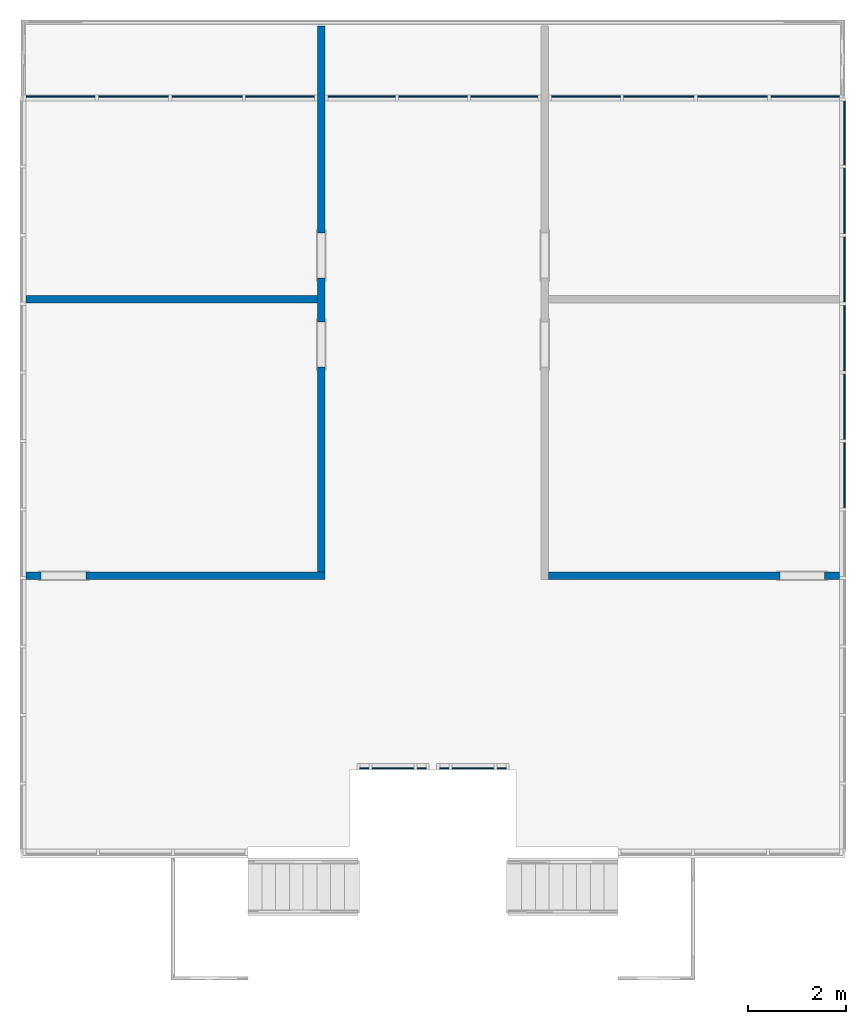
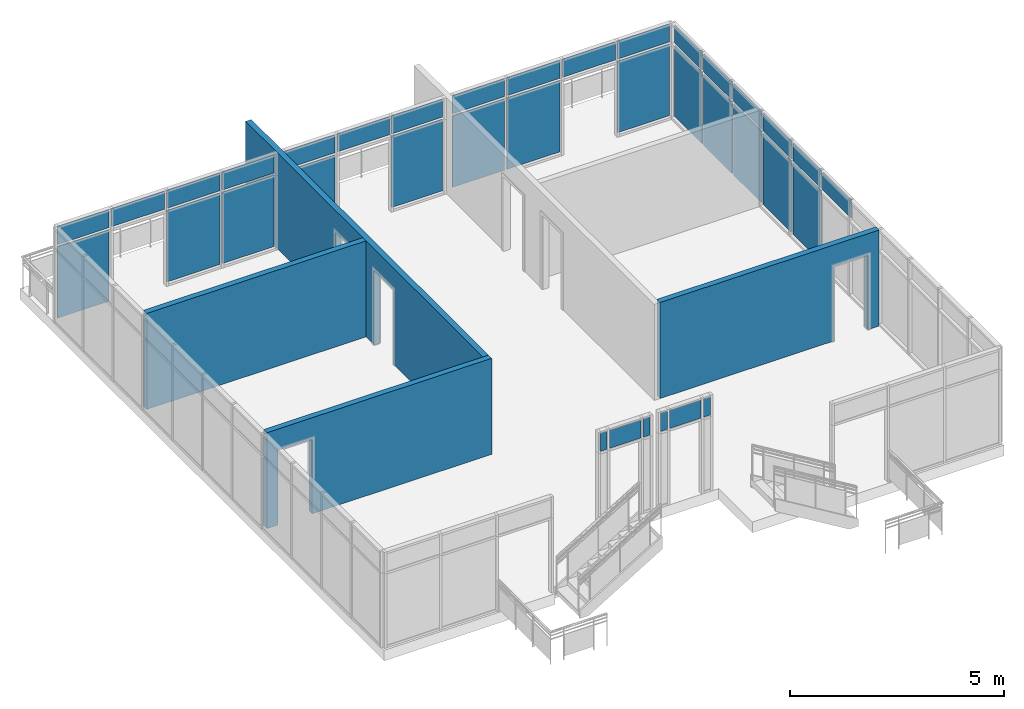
# One storey, part 6 of 11: 36 plates, 4 walls, 4 openings, 6 elements without a shape of their own.
"""IFC2X3 building model written with IfcOpenShell, lengths in feet."""

from ifc_helpers import new_model, entity, si_unit, converted_unit, derived_unit, direction, frame, frame_2d, origin, origin_2d_with_axis, place, context, subcontext, project, spatial, rectangle, extrude, source, transform, mapped, material, layer, layer_set, layer_usage, type_object, type_shapes, element, aggregate, save


model = new_model("IFC2X3")

# Units and contexts
model_context = context("Model", 3, precision=0.0001, world=origin(), true_north=direction((6.12303176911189e-17, 1.0)))
body_context = subcontext(model_context, "Body", "Model", "MODEL_VIEW")
ifc_project = project(units=[converted_unit("LENGTHUNIT", "FOOT", entity("IfcRatioMeasure", 0.3048), si_unit("LENGTHUNIT", "METRE"), dimensions=[1, 0, 0, 0, 0, 0, 0]), converted_unit("AREAUNIT", "SQUARE FOOT", entity("IfcRatioMeasure", 0.09290304), si_unit("AREAUNIT", "SQUARE_METRE"), dimensions=[2, 0, 0, 0, 0, 0, 0]), converted_unit("VOLUMEUNIT", "CUBIC FOOT", entity("IfcRatioMeasure", 0.028316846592), si_unit("VOLUMEUNIT", "CUBIC_METRE"), dimensions=[3, 0, 0, 0, 0, 0, 0]), converted_unit("PLANEANGLEUNIT", "DEGREE", entity("IfcRatioMeasure", 0.0174532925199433), si_unit("PLANEANGLEUNIT", "RADIAN"), dimensions=[0, 0, 0, 0, 0, 0, 0]), si_unit("MASSUNIT", "GRAM", prefix="KILO"), derived_unit("MASSDENSITYUNIT", [(si_unit("MASSUNIT", "GRAM", prefix="KILO"), 1), (si_unit("LENGTHUNIT", "METRE"), -3)]), si_unit("TIMEUNIT", "SECOND"), si_unit("FREQUENCYUNIT", "HERTZ"), si_unit("THERMODYNAMICTEMPERATUREUNIT", "DEGREE_CELSIUS"), derived_unit("THERMALTRANSMITTANCEUNIT", [(si_unit("MASSUNIT", "GRAM", prefix="KILO"), 1), (si_unit("THERMODYNAMICTEMPERATUREUNIT", "KELVIN"), -1), (si_unit("TIMEUNIT", "SECOND"), -3)]), derived_unit("VOLUMETRICFLOWRATEUNIT", [(si_unit("LENGTHUNIT", "METRE"), 3), (si_unit("TIMEUNIT", "SECOND"), -1)]), si_unit("ELECTRICCURRENTUNIT", "AMPERE"), si_unit("ELECTRICVOLTAGEUNIT", "VOLT"), si_unit("POWERUNIT", "WATT"), si_unit("FORCEUNIT", "NEWTON"), si_unit("ILLUMINANCEUNIT", "LUX"), si_unit("LUMINOUSFLUXUNIT", "LUMEN"), si_unit("LUMINOUSINTENSITYUNIT", "CANDELA"), derived_unit("USERDEFINED", [(si_unit("MASSUNIT", "GRAM", prefix="KILO"), -1), (si_unit("LENGTHUNIT", "METRE"), -2), (si_unit("TIMEUNIT", "SECOND"), 3), (si_unit("LUMINOUSFLUXUNIT", "LUMEN"), 1)]), derived_unit("LINEARVELOCITYUNIT", [(si_unit("LENGTHUNIT", "METRE"), 1), (si_unit("TIMEUNIT", "SECOND"), -1)]), si_unit("PRESSUREUNIT", "PASCAL"), derived_unit("USERDEFINED", [(si_unit("LENGTHUNIT", "METRE"), -2), (si_unit("MASSUNIT", "GRAM", prefix="KILO"), 1), (si_unit("TIMEUNIT", "SECOND"), -2)])], contexts=[model_context])

# Site, building, storey
site_placement = place(None, origin())
site = spatial("IfcSite", under=ifc_project, at=site_placement, Name="Default", CompositionType="ELEMENT")
building_placement = place(site_placement, origin())
building = spatial("IfcBuilding", under=site, at=building_placement, CompositionType="ELEMENT")
storey_placement = place(building_placement, frame((0.0, 0.0, 40.0)))
storey = spatial("IfcBuildingStorey", under=building, at=storey_placement, Name="L 7", CompositionType="ELEMENT", Elevation=39.9999999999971)

# Curtain wall, plates
curtain_wall_type = type_object("IfcCurtainWallType", Name="Curtain Wall:Storefront 2", PredefinedType="NOTDEFINED")
curtain_wall_1_placement = place(storey_placement, frame((0.0, 0.0, -40.0)))
curtain_wall_1 = element("IfcCurtainWall", 1, at=curtain_wall_1_placement, inside=storey, type_object=curtain_wall_type, Name="Curtain Wall:Storefront 2", ObjectType="Curtain Wall:Storefront 2")
ifc_material_1 = material(Name="<Unnamed>")
ifc_layer_1 = layer(ifc_material_1, 0.0833333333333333)
ifc_layer_set_1 = layer_set([ifc_layer_1], Name="Curtain Wall:Storefront")
ifc_layer_usage_1 = layer_usage(ifc_layer_set_1, "AXIS3", "POSITIVE", 0.104166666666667)
plate_type_1 = type_object("IfcPlateType", Name="Glazed", PredefinedType="CURTAIN_PANEL", material=ifc_layer_set_1)
shared_shape_1 = source(origin(), body_context, "Body", "SweptSolid", [
    extrude(rectangle(XDim=0.0833333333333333, YDim=0.604166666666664, at=frame_2d((-6.93889390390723e-18, -2.77555756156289e-17), x_axis=(1.0, 0.0))), frame((0.0, 0.104166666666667, 0.0), z_axis=(0.0, 0.0, 1.0), x_axis=(0.0, 1.0, 0.0)), (0.0, 0.0, 1.0), 1.6875),
])
type_shapes(plate_type_1, [shared_shape_1])
plate_1_placement = place(curtain_wall_1_placement, frame((-34.7522461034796, -1.23280792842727, 47.1041666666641), z_axis=(0.0, 0.0, 1.0), x_axis=(-1.0, 0.0, 0.0)))
plate_1 = element("IfcPlate", 2, at=plate_1_placement, type_object=plate_type_1, material=ifc_layer_usage_1, Name="System Panel:Glazed", ObjectType="Glazed", context=body_context, shape_type="MappedRepresentation", body=[
    mapped(shared_shape_1, transform((0.0, 0.0, 0.0), scale=1.0)),
])
ifc_layer_usage_2 = layer_usage(ifc_layer_set_1, "AXIS3", "POSITIVE", 0.104166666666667)
plate_2_placement = place(curtain_wall_1_placement, frame((-38.5647461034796, -1.23280792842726, 47.1041666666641), z_axis=(0.0, 0.0, 1.0), x_axis=(-1.0, 0.0, 0.0)))
plate_2 = element("IfcPlate", 3, at=plate_2_placement, type_object=plate_type_1, material=ifc_layer_usage_2, Name="System Panel:Glazed", ObjectType="Glazed", context=body_context, shape_type="MappedRepresentation", body=[
    mapped(shared_shape_1, transform((0.0, 0.0, 0.0), scale=1.0)),
])

curtain_wall_2_placement = place(storey_placement, frame((0.0, 0.0, -40.0)))
curtain_wall_2 = element("IfcCurtainWall", 4, at=curtain_wall_2_placement, inside=storey, type_object=curtain_wall_type, Name="Curtain Wall:Storefront 2", ObjectType="Curtain Wall:Storefront 2")
ifc_layer_usage_3 = layer_usage(ifc_layer_set_1, "AXIS3", "POSITIVE", 0.104166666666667)
plate_3_placement = place(curtain_wall_2_placement, frame((-29.4189127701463, -1.23280792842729, 47.1041666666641), z_axis=(0.0, 0.0, 1.0), x_axis=(-1.0, 0.0, 0.0)))
plate_3 = element("IfcPlate", 5, at=plate_3_placement, type_object=plate_type_1, material=ifc_layer_usage_3, Name="System Panel:Glazed", ObjectType="Glazed", context=body_context, shape_type="MappedRepresentation", body=[
    mapped(shared_shape_1, transform((0.0, 0.0, 0.0), scale=1.0)),
])
ifc_layer_usage_4 = layer_usage(ifc_layer_set_1, "AXIS3", "POSITIVE", 0.104166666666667)
plate_4_placement = place(curtain_wall_2_placement, frame((-33.2314127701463, -1.23280792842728, 47.1041666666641), z_axis=(0.0, 0.0, 1.0), x_axis=(-1.0, 0.0, 0.0)))
plate_4 = element("IfcPlate", 6, at=plate_4_placement, type_object=plate_type_1, material=ifc_layer_usage_4, Name="System Panel:Glazed", ObjectType="Glazed", context=body_context, shape_type="MappedRepresentation", body=[
    mapped(shared_shape_1, transform((0.0, 0.0, 0.0), scale=1.0)),
])

# Plate
ifc_layer_usage_5 = layer_usage(ifc_layer_set_1, "AXIS3", "POSITIVE", 0.104166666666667)
plate_type_2 = type_object("IfcPlateType", Name="Glazed", PredefinedType="CURTAIN_PANEL", material=ifc_layer_set_1)
shared_shape_2 = source(origin(), body_context, "Body", "SweptSolid", [
    extrude(rectangle(XDim=0.0833333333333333, YDim=2.79166666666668, at=frame_2d((-6.93889390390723e-18, 0.0), x_axis=(1.0, 0.0))), frame((0.0, 0.104166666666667, 0.0), z_axis=(0.0, 0.0, 1.0), x_axis=(0.0, 1.0, 0.0)), (0.0, 0.0, 1.0), 1.6875),
])
type_shapes(plate_type_2, [shared_shape_2])
plate_5_placement = place(curtain_wall_1_placement, frame((-36.6584961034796, -1.23280792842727, 47.1041666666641), z_axis=(0.0, 0.0, 1.0), x_axis=(-1.0, 0.0, 0.0)))
plate_5 = element("IfcPlate", 7, at=plate_5_placement, type_object=plate_type_2, material=ifc_layer_usage_5, Name="System Panel:Glazed", ObjectType="Glazed", context=body_context, shape_type="MappedRepresentation", body=[
    mapped(shared_shape_2, transform((0.0, 0.0, 0.0), scale=1.0)),
])

aggregate(curtain_wall_1, [plate_1, plate_5, plate_2])

ifc_layer_usage_6 = layer_usage(ifc_layer_set_1, "AXIS3", "POSITIVE", 0.104166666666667)
plate_6_placement = place(curtain_wall_2_placement, frame((-31.3251627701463, -1.23280792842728, 47.1041666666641), z_axis=(0.0, 0.0, 1.0), x_axis=(-1.0, 0.0, 0.0)))
plate_6 = element("IfcPlate", 8, at=plate_6_placement, type_object=plate_type_2, material=ifc_layer_usage_6, Name="System Panel:Glazed", ObjectType="Glazed", context=body_context, shape_type="MappedRepresentation", body=[
    mapped(shared_shape_2, transform((0.0, 0.0, 0.0), scale=1.0)),
])

aggregate(curtain_wall_2, [plate_3, plate_6, plate_4])

# Curtain wall, plates
curtain_wall_3_placement = place(storey_placement, frame((0.0, 0.0, -40.0)))
curtain_wall_3 = element("IfcCurtainWall", 9, at=curtain_wall_3_placement, inside=storey, type_object=curtain_wall_type, Name="Curtain Wall:Storefront 2", ObjectType="Curtain Wall:Storefront 2")
ifc_layer_usage_7 = layer_usage(ifc_layer_set_1, "AXIS3", "POSITIVE", 0.104166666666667)
plate_type_3 = type_object("IfcPlateType", Name="Glazed", PredefinedType="CURTAIN_PANEL", material=ifc_layer_set_1)
shared_shape_3 = source(origin(), body_context, "Body", "SweptSolid", [
    extrude(rectangle(XDim=0.0833333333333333, YDim=4.49053030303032, at=frame_2d((-6.93889390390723e-18, 0.0), x_axis=(1.0, 0.0))), frame((0.0, 0.104166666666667, 0.0), z_axis=(0.0, 0.0, 1.0), x_axis=(0.0, 1.0, 0.0)), (0.0, 0.0, 1.0), 6.6875),
])
type_shapes(plate_type_3, [shared_shape_3])
plate_7_placement = place(curtain_wall_3_placement, frame((-38.7427764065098, 43.3505254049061, 40.2083333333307)))
plate_7 = element("IfcPlate", 10, at=plate_7_placement, type_object=plate_type_3, material=ifc_layer_usage_7, Name="System Panel:Glazed", ObjectType="Glazed", context=body_context, shape_type="MappedRepresentation", body=[
    mapped(shared_shape_3, transform((0.0, 0.0, 0.0), scale=1.0)),
])
ifc_layer_usage_8 = layer_usage(ifc_layer_set_1, "AXIS3", "POSITIVE", 0.104166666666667)
plate_8_placement = place(curtain_wall_3_placement, frame((-29.2408824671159, 43.350525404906, 40.2083333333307)))
plate_8 = element("IfcPlate", 11, at=plate_8_placement, type_object=plate_type_3, material=ifc_layer_usage_8, Name="System Panel:Glazed", ObjectType="Glazed", context=body_context, shape_type="MappedRepresentation", body=[
    mapped(shared_shape_3, transform((0.0, 0.0, 0.0), scale=1.0)),
])
ifc_layer_usage_9 = layer_usage(ifc_layer_set_1, "AXIS3", "POSITIVE", 0.104166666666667)
plate_type_4 = type_object("IfcPlateType", Name="Glazed", PredefinedType="CURTAIN_PANEL", material=ifc_layer_set_1)
shared_shape_4 = source(origin(), body_context, "Body", "SweptSolid", [
    extrude(rectangle(XDim=0.0833333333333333, YDim=4.49053030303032, at=frame_2d((-6.93889390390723e-18, 0.0), x_axis=(1.0, 0.0))), frame((0.0, 0.104166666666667, 0.0), z_axis=(0.0, 0.0, 1.0), x_axis=(0.0, 1.0, 0.0)), (0.0, 0.0, 1.0), 1.6875),
])
type_shapes(plate_type_4, [shared_shape_4])
plate_9_placement = place(curtain_wall_3_placement, frame((-38.7427764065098, 43.3505254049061, 47.1041666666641)))
plate_9 = element("IfcPlate", 12, at=plate_9_placement, type_object=plate_type_4, material=ifc_layer_usage_9, Name="System Panel:Glazed", ObjectType="Glazed", context=body_context, shape_type="MappedRepresentation", body=[
    mapped(shared_shape_4, transform((0.0, 0.0, 0.0), scale=1.0)),
])
ifc_layer_usage_10 = layer_usage(ifc_layer_set_1, "AXIS3", "POSITIVE", 0.104166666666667)
plate_10_placement = place(curtain_wall_3_placement, frame((-29.2408824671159, 43.350525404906, 47.1041666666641)))
plate_10 = element("IfcPlate", 13, at=plate_10_placement, type_object=plate_type_4, material=ifc_layer_usage_10, Name="System Panel:Glazed", ObjectType="Glazed", context=body_context, shape_type="MappedRepresentation", body=[
    mapped(shared_shape_4, transform((0.0, 0.0, 0.0), scale=1.0)),
])

curtain_wall_4_placement = place(storey_placement, frame((0.0, 0.0, -40.0)))
curtain_wall_4 = element("IfcCurtainWall", 14, at=curtain_wall_4_placement, inside=storey, type_object=curtain_wall_type, Name="Curtain Wall:Storefront 2", ObjectType="Curtain Wall:Storefront 2")
ifc_layer_usage_11 = layer_usage(ifc_layer_set_1, "AXIS3", "POSITIVE", 0.104166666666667)
plate_type_5 = type_object("IfcPlateType", Name="Glazed", PredefinedType="CURTAIN_PANEL", material=ifc_layer_set_1)
shared_shape_5 = source(origin(), body_context, "Body", "SweptSolid", [
    extrude(rectangle(XDim=0.0833333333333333, YDim=4.59469696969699, at=frame_2d((-6.93889390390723e-18, 0.0), x_axis=(1.0, 0.0))), frame((0.0, 0.104166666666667, 0.0), z_axis=(0.0, 0.0, 1.0), x_axis=(0.0, 1.0, 0.0)), (0.0, 0.0, 1.0), 1.6875),
])
type_shapes(plate_type_5, [shared_shape_5])
plate_11_placement = place(curtain_wall_4_placement, frame((-58.8194809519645, 43.3505254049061, 47.1041666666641)))
plate_11 = element("IfcPlate", 15, at=plate_11_placement, type_object=plate_type_5, material=ifc_layer_usage_11, Name="System Panel:Glazed", ObjectType="Glazed", context=body_context, shape_type="MappedRepresentation", body=[
    mapped(shared_shape_5, transform((0.0, 0.0, 0.0), scale=1.0)),
])
ifc_layer_usage_12 = layer_usage(ifc_layer_set_1, "AXIS3", "POSITIVE", 0.104166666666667)
plate_12_placement = place(curtain_wall_4_placement, frame((-44.2020567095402, 43.3505254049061, 47.1041666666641)))
plate_12 = element("IfcPlate", 16, at=plate_12_placement, type_object=plate_type_5, material=ifc_layer_usage_12, Name="System Panel:Glazed", ObjectType="Glazed", context=body_context, shape_type="MappedRepresentation", body=[
    mapped(shared_shape_5, transform((0.0, 0.0, 0.0), scale=1.0)),
])

curtain_wall_5_placement = place(storey_placement, frame((0.0, 0.0, -40.0)))
curtain_wall_5 = element("IfcCurtainWall", 17, at=curtain_wall_5_placement, inside=storey, type_object=curtain_wall_type, Name="Curtain Wall:Storefront 2", ObjectType="Curtain Wall:Storefront 2")
ifc_layer_usage_13 = layer_usage(ifc_layer_set_1, "AXIS3", "POSITIVE", 0.104166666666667)
plate_13_placement = place(curtain_wall_5_placement, frame((-23.7816021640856, 43.350525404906, 47.1041666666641)))
plate_13 = element("IfcPlate", 18, at=plate_13_placement, type_object=plate_type_5, material=ifc_layer_usage_13, Name="System Panel:Glazed", ObjectType="Glazed", context=body_context, shape_type="MappedRepresentation", body=[
    mapped(shared_shape_5, transform((0.0, 0.0, 0.0), scale=1.0)),
])
ifc_layer_usage_14 = layer_usage(ifc_layer_set_1, "AXIS3", "POSITIVE", 0.104166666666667)
plate_14_placement = place(curtain_wall_5_placement, frame((-9.16417792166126, 43.350525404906, 47.1041666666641)))
plate_14 = element("IfcPlate", 19, at=plate_14_placement, type_object=plate_type_5, material=ifc_layer_usage_14, Name="System Panel:Glazed", ObjectType="Glazed", context=body_context, shape_type="MappedRepresentation", body=[
    mapped(shared_shape_5, transform((0.0, 0.0, 0.0), scale=1.0)),
])

# Plate
ifc_layer_usage_15 = layer_usage(ifc_layer_set_1, "AXIS3", "POSITIVE", 0.104166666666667)
plate_15_placement = place(curtain_wall_3_placement, frame((-33.9918294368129, 43.350525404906, 47.1041666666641)))
plate_15 = element("IfcPlate", 20, at=plate_15_placement, type_object=plate_type_5, material=ifc_layer_usage_15, Name="System Panel:Glazed", ObjectType="Glazed", context=body_context, shape_type="MappedRepresentation", body=[
    mapped(shared_shape_5, transform((0.0, 0.0, 0.0), scale=1.0)),
])

aggregate(curtain_wall_3, [plate_7, plate_8, plate_9, plate_15, plate_10])

# Curtain wall, plates
curtain_wall_6_placement = place(storey_placement, frame((0.0, 0.0, -40.0)))
curtain_wall_6 = element("IfcCurtainWall", 21, at=curtain_wall_6_placement, inside=storey, type_object=curtain_wall_type, Name="Curtain Wall:Storefront 2", ObjectType="Curtain Wall:Storefront 2")
ifc_layer_usage_16 = layer_usage(ifc_layer_set_1, "AXIS3", "POSITIVE", 0.104166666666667)
plate_type_6 = type_object("IfcPlateType", Name="Glazed", PredefinedType="CURTAIN_PANEL", material=ifc_layer_set_1)
shared_shape_6 = source(origin(), body_context, "Body", "SweptSolid", [
    extrude(rectangle(XDim=0.0833333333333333, YDim=4.25946969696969, at=frame_2d((-6.93889390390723e-18, 0.0), x_axis=(1.0, 0.0))), frame((0.0, 0.104166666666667, 0.0), z_axis=(0.0, 0.0, 1.0), x_axis=(0.0, 1.0, 0.0)), (0.0, 0.0, 1.0), 6.6875),
])
type_shapes(plate_type_6, [shared_shape_6])
plate_16_placement = place(curtain_wall_6_placement, frame((-6.65849610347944, 41.0124572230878, 40.2083333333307), z_axis=(0.0, 0.0, 1.0), x_axis=(0.0, -1.0, 0.0)))
plate_16 = element("IfcPlate", 22, at=plate_16_placement, type_object=plate_type_6, material=ifc_layer_usage_16, Name="System Panel:Glazed", ObjectType="Glazed", context=body_context, shape_type="MappedRepresentation", body=[
    mapped(shared_shape_6, transform((0.0, 0.0, 0.0), scale=1.0)),
])
ifc_layer_usage_17 = layer_usage(ifc_layer_set_1, "AXIS3", "POSITIVE", 0.104166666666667)
plate_type_7 = type_object("IfcPlateType", Name="Glazed", PredefinedType="CURTAIN_PANEL", material=ifc_layer_set_1)
shared_shape_7 = source(origin(), body_context, "Body", "SweptSolid", [
    extrude(rectangle(XDim=0.0833333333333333, YDim=4.36363636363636, at=frame_2d((-6.93889390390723e-18, 0.0), x_axis=(1.0, 0.0))), frame((0.0, 0.104166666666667, 0.0), z_axis=(0.0, 0.0, 1.0), x_axis=(0.0, 1.0, 0.0)), (0.0, 0.0, 1.0), 6.6875),
])
type_shapes(plate_type_7, [shared_shape_7])
plate_17_placement = place(curtain_wall_6_placement, frame((-6.65849610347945, 36.4925708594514, 40.2083333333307), z_axis=(0.0, 0.0, 1.0), x_axis=(0.0, -1.0, 0.0)))
plate_17 = element("IfcPlate", 23, at=plate_17_placement, type_object=plate_type_7, material=ifc_layer_usage_17, Name="System Panel:Glazed", ObjectType="Glazed", context=body_context, shape_type="MappedRepresentation", body=[
    mapped(shared_shape_7, transform((0.0, 0.0, 0.0), scale=1.0)),
])
ifc_layer_usage_18 = layer_usage(ifc_layer_set_1, "AXIS3", "POSITIVE", 0.104166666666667)
plate_18_placement = place(curtain_wall_6_placement, frame((-6.65849610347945, 31.9206011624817, 40.2083333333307), z_axis=(0.0, 0.0, 1.0), x_axis=(0.0, -1.0, 0.0)))
plate_18 = element("IfcPlate", 24, at=plate_18_placement, type_object=plate_type_7, material=ifc_layer_usage_18, Name="System Panel:Glazed", ObjectType="Glazed", context=body_context, shape_type="MappedRepresentation", body=[
    mapped(shared_shape_7, transform((0.0, 0.0, 0.0), scale=1.0)),
])
ifc_layer_usage_19 = layer_usage(ifc_layer_set_1, "AXIS3", "POSITIVE", 0.104166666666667)
plate_19_placement = place(curtain_wall_6_placement, frame((-6.65849610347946, 27.348631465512, 40.2083333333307), z_axis=(0.0, 0.0, 1.0), x_axis=(0.0, -1.0, 0.0)))
plate_19 = element("IfcPlate", 25, at=plate_19_placement, type_object=plate_type_7, material=ifc_layer_usage_19, Name="System Panel:Glazed", ObjectType="Glazed", context=body_context, shape_type="MappedRepresentation", body=[
    mapped(shared_shape_7, transform((0.0, 0.0, 0.0), scale=1.0)),
])
ifc_layer_usage_20 = layer_usage(ifc_layer_set_1, "AXIS3", "POSITIVE", 0.104166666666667)
plate_20_placement = place(curtain_wall_6_placement, frame((-6.65849610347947, 22.7766617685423, 40.2083333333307), z_axis=(0.0, 0.0, 1.0), x_axis=(0.0, -1.0, 0.0)))
plate_20 = element("IfcPlate", 26, at=plate_20_placement, type_object=plate_type_7, material=ifc_layer_usage_20, Name="System Panel:Glazed", ObjectType="Glazed", context=body_context, shape_type="MappedRepresentation", body=[
    mapped(shared_shape_7, transform((0.0, 0.0, 0.0), scale=1.0)),
])
ifc_layer_usage_21 = layer_usage(ifc_layer_set_1, "AXIS3", "POSITIVE", 0.104166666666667)
plate_type_8 = type_object("IfcPlateType", Name="Glazed", PredefinedType="CURTAIN_PANEL", material=ifc_layer_set_1)
shared_shape_8 = source(origin(), body_context, "Body", "SweptSolid", [
    extrude(rectangle(XDim=0.0833333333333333, YDim=4.2594696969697, at=frame_2d((-6.93889390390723e-18, 0.0), x_axis=(1.0, 0.0))), frame((0.0, 0.104166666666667, 0.0), z_axis=(0.0, 0.0, 1.0), x_axis=(0.0, 1.0, 0.0)), (0.0, 0.0, 1.0), 1.6875),
])
type_shapes(plate_type_8, [shared_shape_8])
plate_21_placement = place(curtain_wall_6_placement, frame((-6.65849610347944, 41.0124572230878, 47.1041666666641), z_axis=(0.0, 0.0, 1.0), x_axis=(0.0, -1.0, 0.0)))
plate_21 = element("IfcPlate", 27, at=plate_21_placement, type_object=plate_type_8, material=ifc_layer_usage_21, Name="System Panel:Glazed", ObjectType="Glazed", context=body_context, shape_type="MappedRepresentation", body=[
    mapped(shared_shape_8, transform((0.0, 0.0, 0.0), scale=1.0)),
])
ifc_layer_usage_22 = layer_usage(ifc_layer_set_1, "AXIS3", "POSITIVE", 0.104166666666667)
plate_type_9 = type_object("IfcPlateType", Name="Glazed", PredefinedType="CURTAIN_PANEL", material=ifc_layer_set_1)
shared_shape_9 = source(origin(), body_context, "Body", "SweptSolid", [
    extrude(rectangle(XDim=0.0833333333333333, YDim=4.36363636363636, at=frame_2d((-6.93889390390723e-18, 0.0), x_axis=(1.0, 0.0))), frame((0.0, 0.104166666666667, 0.0), z_axis=(0.0, 0.0, 1.0), x_axis=(0.0, 1.0, 0.0)), (0.0, 0.0, 1.0), 1.6875),
])
type_shapes(plate_type_9, [shared_shape_9])
plate_22_placement = place(curtain_wall_6_placement, frame((-6.65849610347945, 36.4925708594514, 47.1041666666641), z_axis=(0.0, 0.0, 1.0), x_axis=(0.0, -1.0, 0.0)))
plate_22 = element("IfcPlate", 28, at=plate_22_placement, type_object=plate_type_9, material=ifc_layer_usage_22, Name="System Panel:Glazed", ObjectType="Glazed", context=body_context, shape_type="MappedRepresentation", body=[
    mapped(shared_shape_9, transform((0.0, 0.0, 0.0), scale=1.0)),
])
ifc_layer_usage_23 = layer_usage(ifc_layer_set_1, "AXIS3", "POSITIVE", 0.104166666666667)
plate_23_placement = place(curtain_wall_6_placement, frame((-6.65849610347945, 31.9206011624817, 47.1041666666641), z_axis=(0.0, 0.0, 1.0), x_axis=(0.0, -1.0, 0.0)))
plate_23 = element("IfcPlate", 29, at=plate_23_placement, type_object=plate_type_9, material=ifc_layer_usage_23, Name="System Panel:Glazed", ObjectType="Glazed", context=body_context, shape_type="MappedRepresentation", body=[
    mapped(shared_shape_9, transform((0.0, 0.0, 0.0), scale=1.0)),
])
ifc_layer_usage_24 = layer_usage(ifc_layer_set_1, "AXIS3", "POSITIVE", 0.104166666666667)
plate_24_placement = place(curtain_wall_6_placement, frame((-6.65849610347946, 27.348631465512, 47.1041666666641), z_axis=(0.0, 0.0, 1.0), x_axis=(0.0, -1.0, 0.0)))
plate_24 = element("IfcPlate", 30, at=plate_24_placement, type_object=plate_type_9, material=ifc_layer_usage_24, Name="System Panel:Glazed", ObjectType="Glazed", context=body_context, shape_type="MappedRepresentation", body=[
    mapped(shared_shape_9, transform((0.0, 0.0, 0.0), scale=1.0)),
])
ifc_layer_usage_25 = layer_usage(ifc_layer_set_1, "AXIS3", "POSITIVE", 0.104166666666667)
plate_25_placement = place(curtain_wall_6_placement, frame((-6.65849610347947, 22.7766617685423, 47.1041666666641), z_axis=(0.0, 0.0, 1.0), x_axis=(0.0, -1.0, 0.0)))
plate_25 = element("IfcPlate", 31, at=plate_25_placement, type_object=plate_type_9, material=ifc_layer_usage_25, Name="System Panel:Glazed", ObjectType="Glazed", context=body_context, shape_type="MappedRepresentation", body=[
    mapped(shared_shape_9, transform((0.0, 0.0, 0.0), scale=1.0)),
])
ifc_layer_usage_26 = layer_usage(ifc_layer_set_1, "AXIS3", "POSITIVE", 0.104166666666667)
plate_26_placement = place(curtain_wall_6_placement, frame((-6.65849610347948, 18.2046920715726, 47.1041666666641), z_axis=(0.0, 0.0, 1.0), x_axis=(0.0, -1.0, 0.0)))
plate_26 = element("IfcPlate", 32, at=plate_26_placement, type_object=plate_type_9, material=ifc_layer_usage_26, Name="System Panel:Glazed", ObjectType="Glazed", context=body_context, shape_type="MappedRepresentation", body=[
    mapped(shared_shape_9, transform((0.0, 0.0, 0.0), scale=1.0)),
])
aggregate(curtain_wall_6, [plate_16, plate_17, plate_18, plate_19, plate_20, plate_21, plate_22, plate_23, plate_24, plate_25, plate_26])

# Plate
ifc_layer_usage_27 = layer_usage(ifc_layer_set_1, "AXIS3", "POSITIVE", 0.104166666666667)
plate_type_10 = type_object("IfcPlateType", Name="Glazed", PredefinedType="CURTAIN_PANEL", material=ifc_layer_set_1)
shared_shape_10 = source(origin(), body_context, "Body", "SweptSolid", [
    extrude(rectangle(XDim=0.0833333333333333, YDim=4.59469696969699, at=frame_2d((-6.93889390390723e-18, 0.0), x_axis=(1.0, 0.0))), frame((0.0, 0.104166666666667, 0.0), z_axis=(0.0, 0.0, 1.0), x_axis=(0.0, 1.0, 0.0)), (0.0, 0.0, 1.0), 6.6875),
])
type_shapes(plate_type_10, [shared_shape_10])
plate_27_placement = place(curtain_wall_4_placement, frame((-58.8194809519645, 43.3505254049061, 40.2083333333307)))
plate_27 = element("IfcPlate", 33, at=plate_27_placement, type_object=plate_type_10, material=ifc_layer_usage_27, Name="System Panel:Glazed", ObjectType="Glazed", context=body_context, shape_type="MappedRepresentation", body=[
    mapped(shared_shape_10, transform((0.0, 0.0, 0.0), scale=1.0)),
])

ifc_layer_usage_28 = layer_usage(ifc_layer_set_1, "AXIS3", "POSITIVE", 0.104166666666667)
plate_28_placement = place(curtain_wall_4_placement, frame((-44.2020567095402, 43.3505254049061, 40.2083333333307)))
plate_28 = element("IfcPlate", 34, at=plate_28_placement, type_object=plate_type_10, material=ifc_layer_usage_28, Name="System Panel:Glazed", ObjectType="Glazed", context=body_context, shape_type="MappedRepresentation", body=[
    mapped(shared_shape_10, transform((0.0, 0.0, 0.0), scale=1.0)),
])

ifc_layer_usage_29 = layer_usage(ifc_layer_set_1, "AXIS3", "POSITIVE", 0.104166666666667)
plate_29_placement = place(curtain_wall_5_placement, frame((-23.7816021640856, 43.350525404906, 40.2083333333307)))
plate_29 = element("IfcPlate", 35, at=plate_29_placement, type_object=plate_type_10, material=ifc_layer_usage_29, Name="System Panel:Glazed", ObjectType="Glazed", context=body_context, shape_type="MappedRepresentation", body=[
    mapped(shared_shape_10, transform((0.0, 0.0, 0.0), scale=1.0)),
])

ifc_layer_usage_30 = layer_usage(ifc_layer_set_1, "AXIS3", "POSITIVE", 0.104166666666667)
plate_30_placement = place(curtain_wall_5_placement, frame((-9.16417792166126, 43.350525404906, 40.2083333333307)))
plate_30 = element("IfcPlate", 36, at=plate_30_placement, type_object=plate_type_10, material=ifc_layer_usage_30, Name="System Panel:Glazed", ObjectType="Glazed", context=body_context, shape_type="MappedRepresentation", body=[
    mapped(shared_shape_10, transform((0.0, 0.0, 0.0), scale=1.0)),
])

ifc_layer_usage_31 = layer_usage(ifc_layer_set_1, "AXIS3", "POSITIVE", 0.104166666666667)
plate_type_11 = type_object("IfcPlateType", Name="Glazed", PredefinedType="CURTAIN_PANEL", material=ifc_layer_set_1)
shared_shape_11 = source(origin(), body_context, "Body", "SweptSolid", [
    extrude(rectangle(XDim=0.0833333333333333, YDim=4.69886363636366, at=frame_2d((-6.93889390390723e-18, 0.0), x_axis=(1.0, 0.0))), frame((0.0, 0.104166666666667, 0.0), z_axis=(0.0, 0.0, 1.0), x_axis=(0.0, 1.0, 0.0)), (0.0, 0.0, 1.0), 6.6875),
])
type_shapes(plate_type_11, [shared_shape_11])
plate_31_placement = place(curtain_wall_4_placement, frame((-49.0571703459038, 43.3505254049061, 40.2083333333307)))
plate_31 = element("IfcPlate", 37, at=plate_31_placement, type_object=plate_type_11, material=ifc_layer_usage_31, Name="System Panel:Glazed", ObjectType="Glazed", context=body_context, shape_type="MappedRepresentation", body=[
    mapped(shared_shape_11, transform((0.0, 0.0, 0.0), scale=1.0)),
])

ifc_layer_usage_32 = layer_usage(ifc_layer_set_1, "AXIS3", "POSITIVE", 0.104166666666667)
plate_32_placement = place(curtain_wall_5_placement, frame((-18.9264885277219, 43.350525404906, 40.2083333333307)))
plate_32 = element("IfcPlate", 38, at=plate_32_placement, type_object=plate_type_11, material=ifc_layer_usage_32, Name="System Panel:Glazed", ObjectType="Glazed", context=body_context, shape_type="MappedRepresentation", body=[
    mapped(shared_shape_11, transform((0.0, 0.0, 0.0), scale=1.0)),
])

ifc_layer_usage_33 = layer_usage(ifc_layer_set_1, "AXIS3", "POSITIVE", 0.104166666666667)
plate_type_12 = type_object("IfcPlateType", Name="Glazed", PredefinedType="CURTAIN_PANEL", material=ifc_layer_set_1)
shared_shape_12 = source(origin(), body_context, "Body", "SweptSolid", [
    extrude(rectangle(XDim=0.0833333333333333, YDim=4.69886363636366, at=frame_2d((-6.93889390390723e-18, 0.0), x_axis=(1.0, 0.0))), frame((0.0, 0.104166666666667, 0.0), z_axis=(0.0, 0.0, 1.0), x_axis=(0.0, 1.0, 0.0)), (0.0, 0.0, 1.0), 1.6875),
])
type_shapes(plate_type_12, [shared_shape_12])
plate_33_placement = place(curtain_wall_4_placement, frame((-53.9643673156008, 43.3505254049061, 47.1041666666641)))
plate_33 = element("IfcPlate", 39, at=plate_33_placement, type_object=plate_type_12, material=ifc_layer_usage_33, Name="System Panel:Glazed", ObjectType="Glazed", context=body_context, shape_type="MappedRepresentation", body=[
    mapped(shared_shape_12, transform((0.0, 0.0, 0.0), scale=1.0)),
])

ifc_layer_usage_34 = layer_usage(ifc_layer_set_1, "AXIS3", "POSITIVE", 0.104166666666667)
plate_34_placement = place(curtain_wall_4_placement, frame((-49.0571703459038, 43.3505254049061, 47.1041666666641)))
plate_34 = element("IfcPlate", 40, at=plate_34_placement, type_object=plate_type_12, material=ifc_layer_usage_34, Name="System Panel:Glazed", ObjectType="Glazed", context=body_context, shape_type="MappedRepresentation", body=[
    mapped(shared_shape_12, transform((0.0, 0.0, 0.0), scale=1.0)),
])

aggregate(curtain_wall_4, [plate_27, plate_31, plate_28, plate_11, plate_33, plate_34, plate_12])

ifc_layer_usage_35 = layer_usage(ifc_layer_set_1, "AXIS3", "POSITIVE", 0.104166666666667)
plate_35_placement = place(curtain_wall_5_placement, frame((-18.9264885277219, 43.350525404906, 47.1041666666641)))
plate_35 = element("IfcPlate", 41, at=plate_35_placement, type_object=plate_type_12, material=ifc_layer_usage_35, Name="System Panel:Glazed", ObjectType="Glazed", context=body_context, shape_type="MappedRepresentation", body=[
    mapped(shared_shape_12, transform((0.0, 0.0, 0.0), scale=1.0)),
])

ifc_layer_usage_36 = layer_usage(ifc_layer_set_1, "AXIS3", "POSITIVE", 0.104166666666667)
plate_36_placement = place(curtain_wall_5_placement, frame((-14.0192915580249, 43.350525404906, 47.1041666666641)))
plate_36 = element("IfcPlate", 42, at=plate_36_placement, type_object=plate_type_12, material=ifc_layer_usage_36, Name="System Panel:Glazed", ObjectType="Glazed", context=body_context, shape_type="MappedRepresentation", body=[
    mapped(shared_shape_12, transform((0.0, 0.0, 0.0), scale=1.0)),
])

aggregate(curtain_wall_5, [plate_29, plate_32, plate_30, plate_13, plate_35, plate_36, plate_14])

# Wall, openings
ifc_material_2 = material(Name="Default Wall")
ifc_layer_2 = layer(ifc_material_2, 0.5)
ifc_layer_set_2 = layer_set([ifc_layer_2], Name="Basic Wall:Generic - 6\"")
ifc_layer_usage_37 = layer_usage(ifc_layer_set_2, "AXIS2", "NEGATIVE", 0.25)
wall_type = type_object("IfcWallType", Name="Basic Wall:Generic - 6\"", PredefinedType="STANDARD", material=ifc_layer_set_2)
wall_1_placement = place(storey_placement, frame((-41.4463748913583, 48.1421920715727, 0.0), z_axis=(0.0, 0.0, 1.0), x_axis=(0.0, -1.0, 0.0)))
wall_1 = element("IfcWallStandardCase", 43, at=wall_1_placement, inside=storey, type_object=wall_type, material=ifc_layer_usage_37, Name="Basic Wall:Generic - 6\"", ObjectType="Basic Wall:Generic - 6\":219", context=body_context, shape_type="SweptSolid", body=[
    extrude(rectangle(XDim=36.4027777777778, YDim=0.5, at=frame_2d((18.2013888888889, 7.49400541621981e-16), x_axis=(-1.0, 0.0))), origin(), (0.0, 0.0, 1.0), 9.0),
])
opening_1_placement = place(wall_1_placement, origin())
element("IfcOpeningElement", 44, at=opening_1_placement, cuts=wall_1, Name="Basic Wall:Generic - 6\"", ObjectType="Opening", context=body_context, shape_type="SweptSolid", body=[
    extrude(rectangle(XDim=7.0, YDim=3.0, at=origin_2d_with_axis()), frame((21.2222222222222, -4.75, 3.5), z_axis=(0.0, 1.0, 0.0), x_axis=(0.0, 0.0, -1.0)), (0.0, 0.0, 1.0), 10.0),
])
opening_2_placement = place(wall_1_placement, origin())
element("IfcOpeningElement", 45, at=opening_2_placement, cuts=wall_1, Name="Basic Wall:Generic - 6\"", ObjectType="Opening", context=body_context, shape_type="SweptSolid", body=[
    extrude(rectangle(XDim=7.0, YDim=3.0, at=origin_2d_with_axis()), frame((15.2916666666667, -4.74999999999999, 3.5), z_axis=(0.0, 1.0, 0.0), x_axis=(0.0, 0.0, -1.0)), (0.0, 0.0, 1.0), 10.0),
])

# Wall
ifc_layer_usage_38 = layer_usage(ifc_layer_set_2, "AXIS2", "NEGATIVE", 0.25)
wall_2_placement = place(storey_placement, frame((-41.6963748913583, 29.9199698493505, 0.0), z_axis=(0.0, 0.0, 1.0), x_axis=(-1.0, 0.0, 0.0)))
element("IfcWallStandardCase", 46, at=wall_2_placement, inside=storey, type_object=wall_type, material=ifc_layer_usage_38, Name="Basic Wall:Generic - 6\"", ObjectType="Basic Wall:Generic - 6\":219", context=body_context, shape_type="SweptSolid", body=[
    extrude(rectangle(XDim=19.4204545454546, YDim=0.5, at=frame_2d((9.7102272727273, -4.02455846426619e-16), x_axis=(-1.0, 0.0))), origin(), (0.0, 0.0, 1.0), 9.0),
])

# Wall, opening
ifc_layer_usage_39 = layer_usage(ifc_layer_set_2, "AXIS2", "NEGATIVE", 0.25)
wall_3_placement = place(storey_placement, frame((-61.1168294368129, 11.489414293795, 0.0)))
wall_3 = element("IfcWallStandardCase", 47, at=wall_3_placement, inside=storey, type_object=wall_type, material=ifc_layer_usage_39, Name="Basic Wall:Generic - 6\"", ObjectType="Basic Wall:Generic - 6\":219", context=body_context, shape_type="SweptSolid", body=[
    extrude(rectangle(XDim=19.9204545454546, YDim=0.5, at=frame_2d((9.96022727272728, 4.16333634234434e-16), x_axis=(-1.0, 0.0))), origin(), (0.0, 0.0, 1.0), 9.0),
])
opening_3_placement = place(wall_3_placement, origin())
element("IfcOpeningElement", 48, at=opening_3_placement, cuts=wall_3, Name="Basic Wall:Generic - 6\"", ObjectType="Opening", context=body_context, shape_type="SweptSolid", body=[
    extrude(rectangle(XDim=7.0, YDim=3.0, at=origin_2d_with_axis()), frame((2.50000000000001, -4.75, 3.5), z_axis=(0.0, 1.0, 0.0), x_axis=(0.0, 0.0, -1.0)), (0.0, 0.0, 1.0), 10.0),
])

ifc_layer_usage_40 = layer_usage(ifc_layer_set_2, "AXIS2", "NEGATIVE", 0.25)
wall_4_placement = place(storey_placement, frame((-6.86682943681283, 11.4894142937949, 0.0), z_axis=(0.0, 0.0, 1.0), x_axis=(-1.0, 0.0, 0.0)))
wall_4 = element("IfcWallStandardCase", 49, at=wall_4_placement, inside=storey, type_object=wall_type, material=ifc_layer_usage_40, Name="Basic Wall:Generic - 6\"", ObjectType="Basic Wall:Generic - 6\":219", context=body_context, shape_type="SweptSolid", body=[
    extrude(rectangle(XDim=19.4204545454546, YDim=0.5, at=frame_2d((9.7102272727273, -3.19189119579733e-16), x_axis=(-1.0, 0.0))), origin(), (0.0, 0.0, 1.0), 9.0),
])
opening_4_placement = place(wall_4_placement, origin())
element("IfcOpeningElement", 50, at=opening_4_placement, cuts=wall_4, Name="Basic Wall:Generic - 6\"", ObjectType="Opening", context=body_context, shape_type="SweptSolid", body=[
    extrude(rectangle(XDim=7.0, YDim=3.0, at=frame_2d((0.0, -8.88178419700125e-16), x_axis=(1.0, 0.0))), frame((2.5, -4.75, 3.5), z_axis=(0.0, 1.0, 0.0), x_axis=(0.0, 0.0, -1.0)), (0.0, 0.0, 1.0), 10.0),
])

save(model, "model.ifc")
